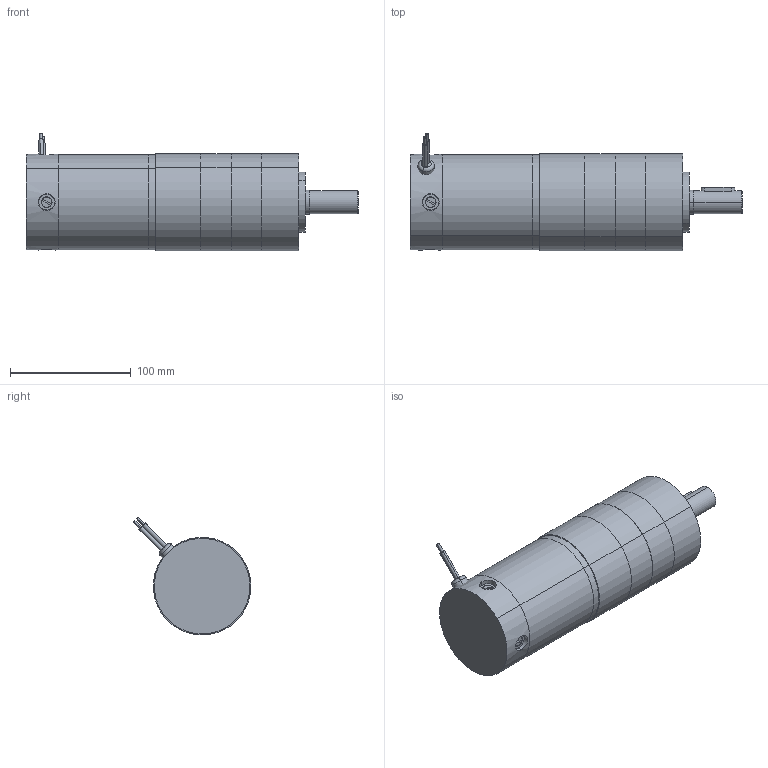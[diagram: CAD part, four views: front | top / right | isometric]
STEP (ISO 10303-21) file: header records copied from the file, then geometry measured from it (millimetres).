
FILE_DESCRIPTION (( 'STEP AP203' ), '1' );
FILE_NAME ('d33455bgp2.step', '2018-12-07T19:32:02', ( '' ), ( '' ), 'SwSTEP 2.0', 'SolidWorks 2017', '' );
FILE_SCHEMA (( 'CONFIG_CONTROL_DESIGN' ));
Length unit declared in the file: inch
Products named in the file (1): d33455bgp2
Bounding box: 275.36 x 97.55 x 97.55 mm (x, y, z)
Volume: 1167346.6 mm3; surface area: 152798.4 mm2
Topology: 19 solids, 19 shells, 362 faces, 764 edges, 476 vertices
Faces by surface type: cylinder 153, plane 150, cone 49, torus 6, sphere 4
Entity records: 10154 total; most frequent: CARTESIAN_POINT 2117, DIRECTION 1801, ORIENTED_EDGE 1496, EDGE_CURVE 748, AXIS2_PLACEMENT_3D 720, VERTEX_POINT 476, EDGE_LOOP 430, ADVANCED_FACE 362
